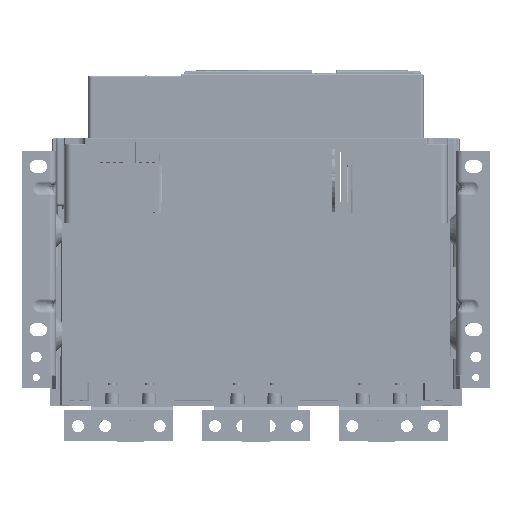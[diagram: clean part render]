
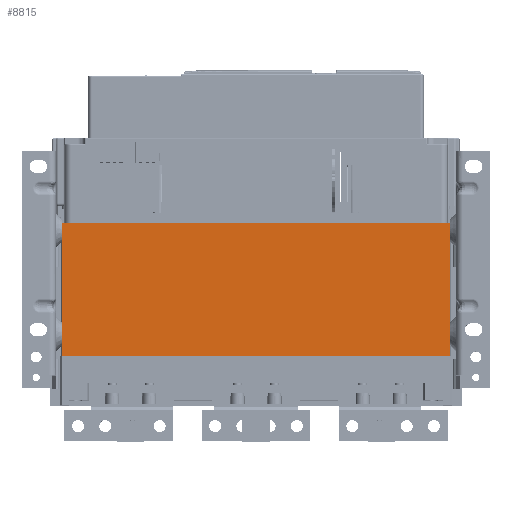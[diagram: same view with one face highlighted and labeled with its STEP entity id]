
A CAD part, top view. The second image highlights one B-rep face of the part: STEP entity #8815.
In plain terms, the highlighted planar face has unit normal (0, 0, 1).
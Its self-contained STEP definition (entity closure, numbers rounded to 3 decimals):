
#461=DIRECTION('',(1.,0.,0.));
#462=VECTOR('',#461,356.);
#463=CARTESIAN_POINT('',(-178.,123.,150.));
#464=LINE('',#463,#462);
#940=DIRECTION('',(1.,0.,0.));
#941=VECTOR('',#940,356.);
#942=CARTESIAN_POINT('',(-178.,0.,150.));
#943=LINE('',#942,#941);
#3123=DIRECTION('',(0.,1.,0.));
#3124=VECTOR('',#3123,123.);
#3125=CARTESIAN_POINT('',(178.,0.,150.));
#3126=LINE('',#3125,#3124);
#3446=DIRECTION('',(0.,1.,0.));
#3447=VECTOR('',#3446,123.);
#3448=CARTESIAN_POINT('',(-178.,0.,150.));
#3449=LINE('',#3448,#3447);
#4359=CARTESIAN_POINT('',(-178.,0.,150.));
#4360=VERTEX_POINT('',#4359);
#4361=CARTESIAN_POINT('',(178.,0.,150.));
#4362=VERTEX_POINT('',#4361);
#4375=CARTESIAN_POINT('',(-178.,123.,150.));
#4376=CARTESIAN_POINT('',(178.,123.,150.));
#4377=VERTEX_POINT('',#4375);
#4378=VERTEX_POINT('',#4376);
#8804=CARTESIAN_POINT('',(-178.,0.,150.));
#8805=DIRECTION('',(0.,0.,1.));
#8806=DIRECTION('',(1.,0.,0.));
#8807=AXIS2_PLACEMENT_3D('',#8804,#8805,#8806);
#8808=PLANE('',#8807);
#8809=ORIENTED_EDGE('',*,*,#5646,.F.);
#8810=ORIENTED_EDGE('',*,*,#7900,.T.);
#8811=ORIENTED_EDGE('',*,*,#5415,.T.);
#8812=ORIENTED_EDGE('',*,*,#8356,.F.);
#8813=EDGE_LOOP('',(#8809,#8810,#8811,#8812));
#8814=FACE_OUTER_BOUND('',#8813,.F.);
#8815=ADVANCED_FACE('',(#8814),#8808,.T.);
#5415=EDGE_CURVE('',#4377,#4378,#464,.T.);
#5646=EDGE_CURVE('',#4360,#4362,#943,.T.);
#7900=EDGE_CURVE('',#4360,#4377,#3449,.T.);
#8356=EDGE_CURVE('',#4362,#4378,#3126,.T.);
